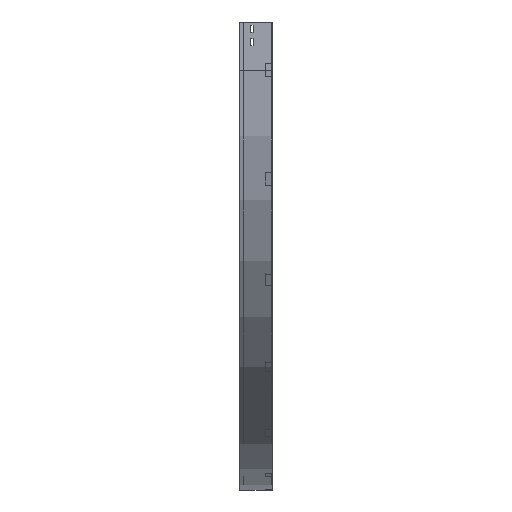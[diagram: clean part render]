
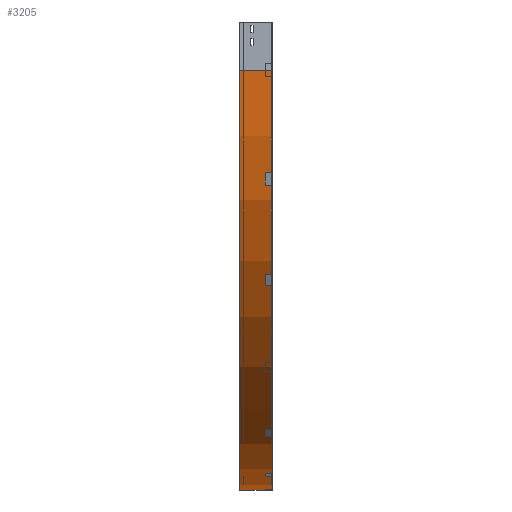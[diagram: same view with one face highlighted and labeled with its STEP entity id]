
A CAD part, left-side view. The second image highlights one B-rep face of the part: STEP entity #3205.
In plain terms, the highlighted cylindrical face has radius 1300 mm (diameter 2600 mm), a partial arc.
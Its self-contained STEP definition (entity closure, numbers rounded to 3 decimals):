
#68 = VERTEX_POINT ( 'NONE', #1705 ) ;
#253 = LINE ( 'NONE', #3529, #1990 ) ;
#266 = EDGE_CURVE ( 'NONE', #68, #1581, #1449, .T. ) ;
#273 = CARTESIAN_POINT ( 'NONE',  ( 1300., 0., -150. ) ) ;
#544 = FACE_OUTER_BOUND ( 'NONE', #2017, .T. ) ;
#651 = LINE ( 'NONE', #908, #2042 ) ;
#870 = DIRECTION ( 'NONE',  ( 0., 0., -1. ) ) ;
#908 = CARTESIAN_POINT ( 'NONE',  ( 1300., 0., -1450. ) ) ;
#925 = DIRECTION ( 'NONE',  ( 0., -1., 0. ) ) ;
#990 = DIRECTION ( 'NONE',  ( 0., -1., 0. ) ) ;
#1069 = EDGE_CURVE ( 'NONE', #2578, #1581, #651, .T. ) ;
#1417 = DIRECTION ( 'NONE',  ( 0., -1., 0. ) ) ;
#1449 = CIRCLE ( 'NONE', #2980, 1300. ) ;
#1581 = VERTEX_POINT ( 'NONE', #2593 ) ;
#1705 = CARTESIAN_POINT ( 'NONE',  ( 0., 0., -150. ) ) ;
#1736 = CYLINDRICAL_SURFACE ( 'NONE', #2159, 1300. ) ;
#1871 = DIRECTION ( 'NONE',  ( -1., 0., 0. ) ) ;
#1990 = VECTOR ( 'NONE', #1417, 1000. ) ;
#2017 = EDGE_LOOP ( 'NONE', ( #2027, #2133, #3263, #3562 ) ) ;
#2027 = ORIENTED_EDGE ( 'NONE', *, *, #266, .F. ) ;
#2042 = VECTOR ( 'NONE', #3064, 1000. ) ;
#2116 = EDGE_CURVE ( 'NONE', #3540, #68, #253, .T. ) ;
#2133 = ORIENTED_EDGE ( 'NONE', *, *, #2116, .F. ) ;
#2159 = AXIS2_PLACEMENT_3D ( 'NONE', #273, #2647, #870 ) ;
#2578 = VERTEX_POINT ( 'NONE', #3341 ) ;
#2593 = CARTESIAN_POINT ( 'NONE',  ( 1300., 0., -1450. ) ) ;
#2615 = EDGE_CURVE ( 'NONE', #3540, #2578, #3004, .T. ) ;
#2647 = DIRECTION ( 'NONE',  ( 0., -1., 0. ) ) ;
#2980 = AXIS2_PLACEMENT_3D ( 'NONE', #3376, #990, #3633 ) ;
#3004 = CIRCLE ( 'NONE', #3513, 1300. ) ;
#3064 = DIRECTION ( 'NONE',  ( 0., -1., 0. ) ) ;
#3205 = ADVANCED_FACE ( 'NONE', ( #544 ), #1736, .T. ) ;
#3263 = ORIENTED_EDGE ( 'NONE', *, *, #2615, .T. ) ;
#3341 = CARTESIAN_POINT ( 'NONE',  ( 1300., 100., -1450. ) ) ;
#3376 = CARTESIAN_POINT ( 'NONE',  ( 1300., 0., -150. ) ) ;
#3513 = AXIS2_PLACEMENT_3D ( 'NONE', #3620, #925, #1871 ) ;
#3529 = CARTESIAN_POINT ( 'NONE',  ( 0., 0., -150. ) ) ;
#3540 = VERTEX_POINT ( 'NONE', #3787 ) ;
#3562 = ORIENTED_EDGE ( 'NONE', *, *, #1069, .T. ) ;
#3620 = CARTESIAN_POINT ( 'NONE',  ( 1300., 100., -150. ) ) ;
#3633 = DIRECTION ( 'NONE',  ( -1., 0., 0. ) ) ;
#3787 = CARTESIAN_POINT ( 'NONE',  ( 0., 100., -150. ) ) ;
